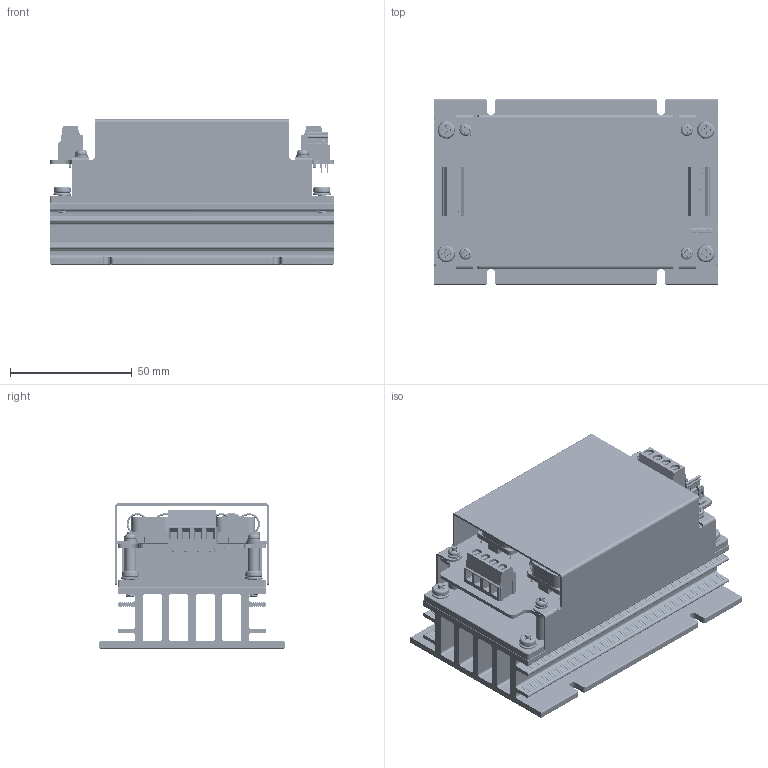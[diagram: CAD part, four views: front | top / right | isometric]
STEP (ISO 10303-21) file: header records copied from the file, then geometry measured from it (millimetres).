
FILE_DESCRIPTION (( 'STEP AP203' ), '1' );
FILE_NAME ('CQB150W-110S-CMFD+HS 2023.07.19.STEP', '2023-07-20T00:26:51', ( '' ), ( '' ), 'SwSTEP 2.0', 'SolidWorks 2020', '' );
FILE_SCHEMA (( 'CONFIG_CONTROL_DESIGN' ));
Products named in the file (1): CQB150W-110S-CMFD+HS 2023.07.19
Bounding box: 116.84 x 76.2 x 59.7 mm (x, y, z)
Volume: 174952.5 mm3; surface area: 118875.9 mm2
Topology: 13 solids, 19 shells, 2811 faces, 8652 edges, 5512 vertices
Faces by surface type: plane 1575, cylinder 633, bspline 393, cone 123, torus 53, sphere 34
Full cylindrical faces by diameter (mm): 0.5 x8, 0.8 x6, 0.9 x4, 1 x17, 1.15 x6, 1.2 x3, 1.4 x4, 1.5 x4, 1.65 x2, 1.8 x2, 2.5 x28, 3.2 x13, 3.25 x1, 3.8 x8, 3.9 x35, 4 x11, 4.3 x6, 4.445 x1, 4.5 x7, 4.7 x10, 5 x4, 7.8 x1, 8 x1, 8.8 x1, 12.6 x2
Entity records: 326580 total; most frequent: CARTESIAN_POINT 257687, ORIENTED_EDGE 15764, DIRECTION 11777, EDGE_CURVE 7882, VERTEX_POINT 5288, LINE 4497, VECTOR 4497, AXIS2_PLACEMENT_3D 3640
